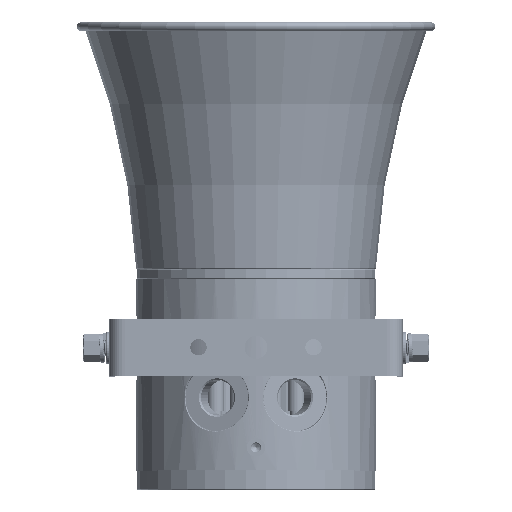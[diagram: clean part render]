
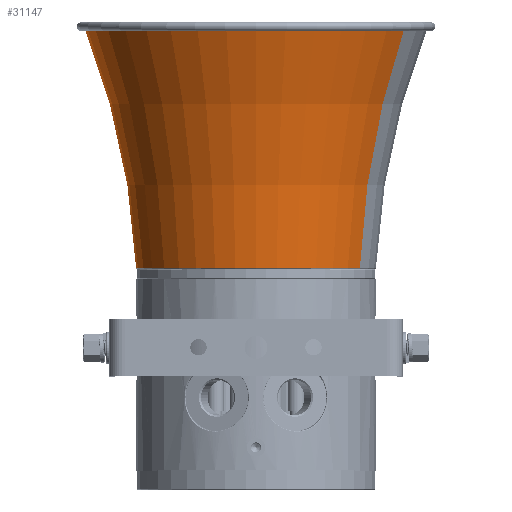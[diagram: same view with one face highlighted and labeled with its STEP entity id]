
A CAD part, top view. The second image highlights one B-rep face of the part: STEP entity #31147.
In plain terms, the highlighted toroidal (fillet/blend) face has major radius 462.029 mm and minor radius 400 mm.
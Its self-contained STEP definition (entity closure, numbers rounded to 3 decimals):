
#30664=CARTESIAN_POINT('',(0.,462.029,19.404));
#30665=DIRECTION('',(-1.,0.,0.));
#30666=DIRECTION('',(0.,-0.931,-0.366));
#30667=AXIS2_PLACEMENT_3D('',#30664,#30665,#30666);
#30669=CARTESIAN_POINT('',(0.,0.,-127.049));
#30670=DIRECTION('',(0.,0.,-1.));
#30671=DIRECTION('',(0.,1.,0.));
#30672=AXIS2_PLACEMENT_3D('',#30669,#30670,#30671);
#30674=CARTESIAN_POINT('',(0.,-462.029,
19.404));
#30675=DIRECTION('',(1.,0.,0.));
#30676=DIRECTION('',(0.,0.931,-0.366));
#30677=AXIS2_PLACEMENT_3D('',#30674,#30675,#30676);
#30684=CARTESIAN_POINT('',(0.,0.,-0.76));
#30685=DIRECTION('',(0.,0.,1.));
#30686=DIRECTION('',(0.,-1.,0.));
#30687=AXIS2_PLACEMENT_3D('',#30684,#30685,#30686);
#31037=CARTESIAN_POINT('',(0.,89.804,-127.049));
#31039=VERTEX_POINT('',#31037);
#31041=CARTESIAN_POINT('',(0.,-89.804,
-127.049));
#31043=VERTEX_POINT('',#31041);
#31120=CARTESIAN_POINT('',(0.,62.538,
-0.76));
#31121=CARTESIAN_POINT('',(0.,-62.538,
-0.76));
#31122=VERTEX_POINT('',#31120);
#31123=VERTEX_POINT('',#31121);
#31132=CARTESIAN_POINT('',(0.,0.,19.404));
#31133=DIRECTION('',(0.,0.,1.));
#31134=DIRECTION('',(0.,1.,0.));
#31135=AXIS2_PLACEMENT_3D('',#31132,#31133,#31134);
#31136=TOROIDAL_SURFACE('',#31135,462.029,400.);
#31138=ORIENTED_EDGE('',*,*,#31137,.T.);
#31140=ORIENTED_EDGE('',*,*,#31139,.F.);
#31142=ORIENTED_EDGE('',*,*,#31141,.T.);
#31144=ORIENTED_EDGE('',*,*,#31143,.T.);
#31145=EDGE_LOOP('',(#31138,#31140,#31142,#31144));
#31146=FACE_OUTER_BOUND('',#31145,.F.);
#31147=ADVANCED_FACE('',(#31146),#31136,.F.);
#30668=CIRCLE('',#30667,400.);
#30673=CIRCLE('',#30672,89.804);
#30678=CIRCLE('',#30677,400.);
#30688=CIRCLE('',#30687,62.538);
#31137=EDGE_CURVE('',#31123,#31122,#30688,.T.);
#31139=EDGE_CURVE('',#31039,#31122,#30668,.T.);
#31141=EDGE_CURVE('',#31039,#31043,#30673,.T.);
#31143=EDGE_CURVE('',#31043,#31123,#30678,.T.);
